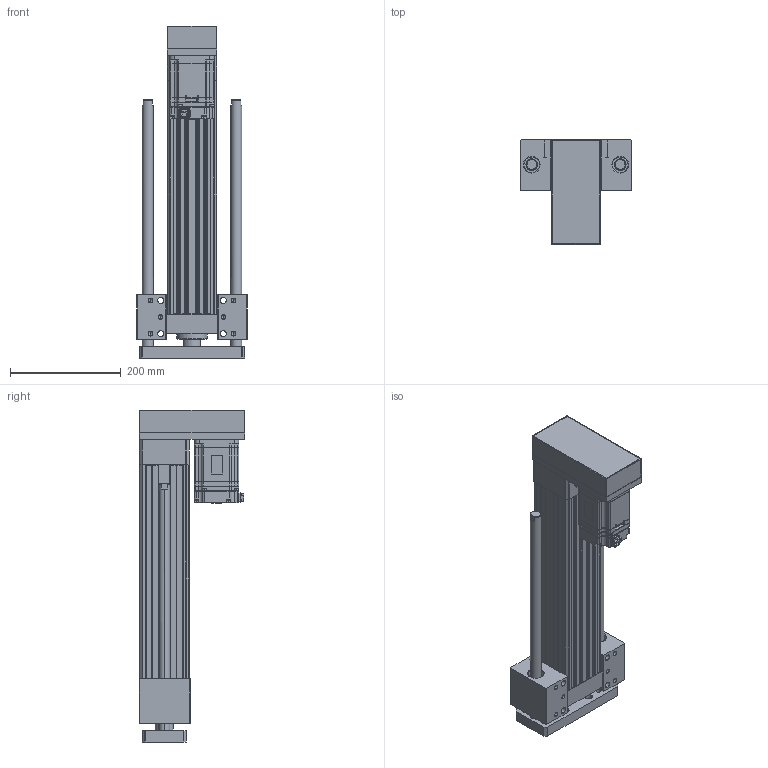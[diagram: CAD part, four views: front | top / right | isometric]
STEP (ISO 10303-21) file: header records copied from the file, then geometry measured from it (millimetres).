
FILE_DESCRIPTION (( 'STEP AP203' ), '1' );
FILE_NAME ('ANS090R-HP300-05(10)(20)-W75.STEP', '2019-03-02T09:42:19', ( 'user' ), ( '' ), 'SwSTEP 2.0', 'SolidWorks 2013', '' );
FILE_SCHEMA (( 'CONFIG_CONTROL_DESIGN' ));
Length unit declared in the file: millimetre
Products named in the file (4): ANS090R HP300 VER2; SGMJV_08A_A21; ANS090 ROD ST300-H; ANS090R-HP300-05(10)(20)-W75
Assembly tree (3 placements, depth 2):
  ANS090R-HP300-05(10)(20)-W75
    ANS090R HP300 VER2
    SGMJV_08A_A21
    ANS090 ROD ST300-H
Bounding box: 200 x 190 x 600 mm (x, y, z)
Volume: 4332395.9 mm3; surface area: 780887.7 mm2
Topology: 3 solids, 3 shells, 1228 faces, 3234 edges, 2090 vertices
Faces by surface type: plane 688, cylinder 434, cone 94, sphere 8, bspline 4
Entity records: 38470 total; most frequent: CARTESIAN_POINT 7180, DIRECTION 6468, ORIENTED_EDGE 6420, EDGE_CURVE 3210, VECTOR 2168, LINE 2168, AXIS2_PLACEMENT_3D 2150, VERTEX_POINT 2090
